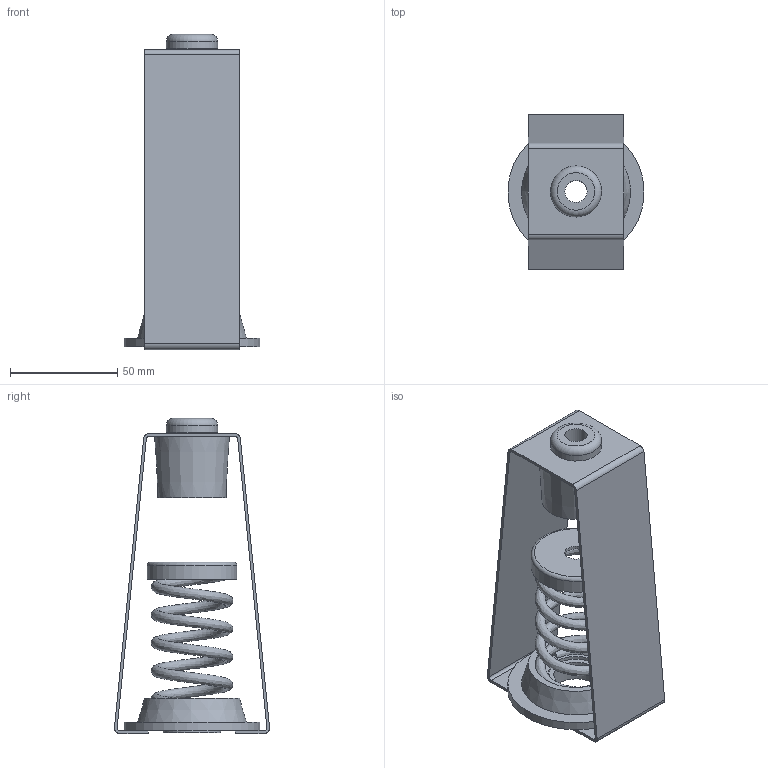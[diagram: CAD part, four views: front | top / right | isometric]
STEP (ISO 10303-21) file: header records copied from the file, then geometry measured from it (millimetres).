
FILE_DESCRIPTION((''),'2;1');
FILE_NAME('C:\2012_Work\Designs\exports\30N\30N-X-210.stp','2013-06-27T11:40:03',('KShiels'),(''),'Autodesk Inventor 2012','Autodesk Inventor 2012','');
FILE_SCHEMA(('AUTOMOTIVE_DESIGN { 1 0 10303 214 1 1 1 1 }'));
Length unit declared in the file: inch
Products named in the file (12): 30N-X-210; A-22045-5 30N-X FRAME ASSY; A-22045-4A; A-22045-4B; A-16118-5R LDS HD HANGER ELEMENT; A-16118-5R; 1.125ODx.4375IDx; A-13983-6R LDS HANGER CUP X; A-13983-6R LDS CUP X; A-13983-6R WASHER X; A-22839-1 STEEL CUP; X-210 SPRING
Assembly tree (11 placements, depth 3):
  30N-X-210
    A-22045-5 30N-X FRAME ASSY
      A-22045-4A
      A-22045-4B
    A-16118-5R LDS HD HANGER ELEMENT
      A-16118-5R
      1.125ODx.4375IDx
    A-13983-6R LDS HANGER CUP X
      A-13983-6R LDS CUP X
      A-13983-6R WASHER X
    A-22839-1 STEEL CUP
    X-210 SPRING
Bounding box: 63.3 x 72.3 x 146.76 mm (x, y, z)
Volume: 81357.7 mm3; surface area: 69137.6 mm2
Topology: 8 solids, 8 shells, 161 faces, 377 edges, 251 vertices
Faces by surface type: plane 117, cylinder 27, bspline 13, torus 2, cone 2
Full cylindrical faces by diameter (mm): 10.319 x2, 11.113 x1, 17.463 x2, 20.637 x1, 20.638 x1, 23.813 x1, 25.4 x1, 26.987 x1, 26.988 x1, 28.575 x2, 38.1 x1, 38.894 x1, 39.687 x1, 39.688 x1, 41.906 x1, 63.5 x1
Entity records: 5918 total; most frequent: CARTESIAN_POINT 1953, DIRECTION 728, ORIENTED_EDGE 704, EDGE_CURVE 352, VECTOR 262, LINE 262, VERTEX_POINT 249, AXIS2_PLACEMENT_3D 233
